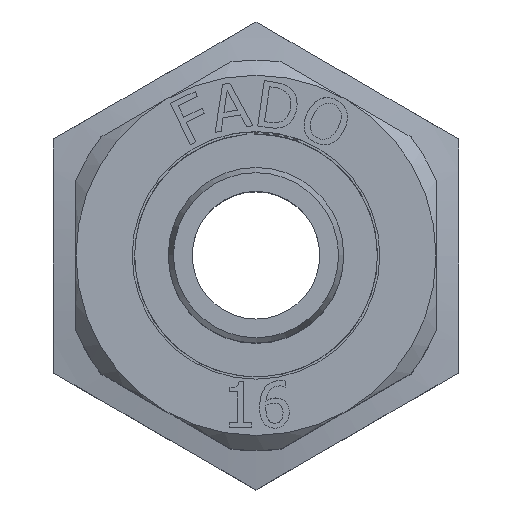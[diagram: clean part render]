
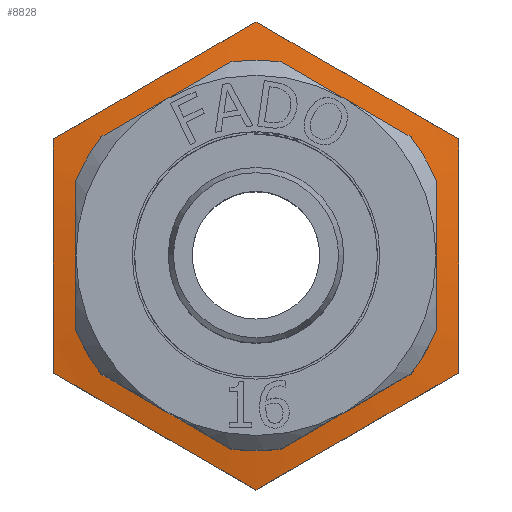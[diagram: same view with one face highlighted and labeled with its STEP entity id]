
A CAD part, top view. The second image highlights one B-rep face of the part: STEP entity #8828.
In plain terms, the highlighted conical face has half-angle 80 degrees and reference radius 14.464 mm.
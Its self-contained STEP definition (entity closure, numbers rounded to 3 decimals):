
#1005=LINE('',#11603,#1531);
#1531=VECTOR('',#9988,14.464);
#2062=(
BOUNDED_CURVE()
B_SPLINE_CURVE(2,(#11605,#11606,#11607),.UNSPECIFIED.,.F.,.F.)
B_SPLINE_CURVE_WITH_KNOTS((3,3),(0.4,2.115),
 .UNSPECIFIED.)
CURVE()
GEOMETRIC_REPRESENTATION_ITEM()
RATIONAL_B_SPLINE_CURVE((1.098,1.267,1.098))
REPRESENTATION_ITEM('')
);
#2063=(
BOUNDED_CURVE()
B_SPLINE_CURVE(2,(#11609,#11610,#11611),.UNSPECIFIED.,.F.,.F.)
B_SPLINE_CURVE_WITH_KNOTS((3,3),(0.4,2.115),
 .UNSPECIFIED.)
CURVE()
GEOMETRIC_REPRESENTATION_ITEM()
RATIONAL_B_SPLINE_CURVE((1.098,1.267,1.098))
REPRESENTATION_ITEM('')
);
#2064=(
BOUNDED_CURVE()
B_SPLINE_CURVE(2,(#11613,#11614,#11615),.UNSPECIFIED.,.F.,.F.)
B_SPLINE_CURVE_WITH_KNOTS((3,3),(0.4,2.115),
 .UNSPECIFIED.)
CURVE()
GEOMETRIC_REPRESENTATION_ITEM()
RATIONAL_B_SPLINE_CURVE((1.098,1.267,1.098))
REPRESENTATION_ITEM('')
);
#2065=(
BOUNDED_CURVE()
B_SPLINE_CURVE(2,(#11617,#11618,#11619),.UNSPECIFIED.,.F.,.F.)
B_SPLINE_CURVE_WITH_KNOTS((3,3),(0.4,2.115),
 .UNSPECIFIED.)
CURVE()
GEOMETRIC_REPRESENTATION_ITEM()
RATIONAL_B_SPLINE_CURVE((1.098,1.267,1.098))
REPRESENTATION_ITEM('')
);
#2066=(
BOUNDED_CURVE()
B_SPLINE_CURVE(2,(#11621,#11622,#11623),.UNSPECIFIED.,.F.,.F.)
B_SPLINE_CURVE_WITH_KNOTS((3,3),(0.4,2.115),
 .UNSPECIFIED.)
CURVE()
GEOMETRIC_REPRESENTATION_ITEM()
RATIONAL_B_SPLINE_CURVE((1.098,1.267,1.098))
REPRESENTATION_ITEM('')
);
#2067=(
BOUNDED_CURVE()
B_SPLINE_CURVE(2,(#11624,#11625,#11626),.UNSPECIFIED.,.F.,.F.)
B_SPLINE_CURVE_WITH_KNOTS((3,3),(0.4,2.115),
 .UNSPECIFIED.)
CURVE()
GEOMETRIC_REPRESENTATION_ITEM()
RATIONAL_B_SPLINE_CURVE((1.098,1.267,1.098))
REPRESENTATION_ITEM('')
);
#2097=CONICAL_SURFACE('',#9442,14.464,1.396);
#2182=FACE_OUTER_BOUND('',#2701,.T.);
#2701=EDGE_LOOP('',(#5876,#5877,#5878,#5879,#5880,#5881,#5882,#5883,#5884,
#5885));
#3275=CIRCLE('',#9443,10.5);
#3276=CIRCLE('',#9444,10.5);
#3520=VERTEX_POINT('',#11599);
#3521=VERTEX_POINT('',#11600);
#3522=VERTEX_POINT('',#11602);
#3523=VERTEX_POINT('',#11604);
#3524=VERTEX_POINT('',#11608);
#3525=VERTEX_POINT('',#11612);
#3526=VERTEX_POINT('',#11616);
#3527=VERTEX_POINT('',#11620);
#4467=EDGE_CURVE('',#3520,#3521,#3275,.T.);
#4468=EDGE_CURVE('',#3520,#3522,#1005,.T.);
#4469=EDGE_CURVE('',#3523,#3522,#2062,.T.);
#4470=EDGE_CURVE('',#3524,#3523,#2063,.T.);
#4471=EDGE_CURVE('',#3525,#3524,#2064,.T.);
#4472=EDGE_CURVE('',#3526,#3525,#2065,.T.);
#4473=EDGE_CURVE('',#3527,#3526,#2066,.T.);
#4474=EDGE_CURVE('',#3522,#3527,#2067,.T.);
#4475=EDGE_CURVE('',#3521,#3520,#3276,.T.);
#5876=ORIENTED_EDGE('',*,*,#4467,.F.);
#5877=ORIENTED_EDGE('',*,*,#4468,.T.);
#5878=ORIENTED_EDGE('',*,*,#4469,.F.);
#5879=ORIENTED_EDGE('',*,*,#4470,.F.);
#5880=ORIENTED_EDGE('',*,*,#4471,.F.);
#5881=ORIENTED_EDGE('',*,*,#4472,.F.);
#5882=ORIENTED_EDGE('',*,*,#4473,.F.);
#5883=ORIENTED_EDGE('',*,*,#4474,.F.);
#5884=ORIENTED_EDGE('',*,*,#4468,.F.);
#5885=ORIENTED_EDGE('',*,*,#4475,.F.);
#8828=ADVANCED_FACE('',(#2182),#2097,.T.);
#9442=AXIS2_PLACEMENT_3D('',#11598,#9984,#9985);
#9443=AXIS2_PLACEMENT_3D('',#11601,#9986,#9987);
#9444=AXIS2_PLACEMENT_3D('',#11627,#9989,#9990);
#9984=DIRECTION('center_axis',(0.,0.,-1.));
#9985=DIRECTION('ref_axis',(0.,1.,0.));
#9986=DIRECTION('center_axis',(0.,0.,1.));
#9987=DIRECTION('ref_axis',(1.,0.,0.));
#9988=DIRECTION('',(0.,-0.985,-0.174));
#9989=DIRECTION('center_axis',(0.,0.,1.));
#9990=DIRECTION('ref_axis',(1.,0.,0.));
#11598=CARTESIAN_POINT('Origin',(0.,0.,3.051));
#11599=CARTESIAN_POINT('',(0.,-10.5,3.75));
#11600=CARTESIAN_POINT('',(0.,10.5,3.75));
#11601=CARTESIAN_POINT('Origin',(0.,0.,3.75));
#11602=CARTESIAN_POINT('',(0.,-15.588,2.853));
#11603=CARTESIAN_POINT('',(0.,-14.464,3.051));
#11604=CARTESIAN_POINT('',(13.5,-7.794,2.853));
#11605=CARTESIAN_POINT('Ctrl Pts',(13.5,-7.794,2.853));
#11606=CARTESIAN_POINT('Ctrl Pts',(6.75,-11.691,3.54));
#11607=CARTESIAN_POINT('Ctrl Pts',(0.,-15.588,
2.853));
#11608=CARTESIAN_POINT('',(13.5,7.794,2.853));
#11609=CARTESIAN_POINT('Ctrl Pts',(13.5,7.794,2.853));
#11610=CARTESIAN_POINT('Ctrl Pts',(13.5,0.,3.54));
#11611=CARTESIAN_POINT('Ctrl Pts',(13.5,-7.794,2.853));
#11612=CARTESIAN_POINT('',(0.,15.588,2.853));
#11613=CARTESIAN_POINT('Ctrl Pts',(0.,15.588,
2.853));
#11614=CARTESIAN_POINT('Ctrl Pts',(6.75,11.691,3.54));
#11615=CARTESIAN_POINT('Ctrl Pts',(13.5,7.794,2.853));
#11616=CARTESIAN_POINT('',(-13.5,7.794,2.853));
#11617=CARTESIAN_POINT('Ctrl Pts',(-13.5,7.794,2.853));
#11618=CARTESIAN_POINT('Ctrl Pts',(-6.75,11.691,3.54));
#11619=CARTESIAN_POINT('Ctrl Pts',(0.,15.588,
2.853));
#11620=CARTESIAN_POINT('',(-13.5,-7.794,2.853));
#11621=CARTESIAN_POINT('Ctrl Pts',(-13.5,-7.794,2.853));
#11622=CARTESIAN_POINT('Ctrl Pts',(-13.5,0.,3.54));
#11623=CARTESIAN_POINT('Ctrl Pts',(-13.5,7.794,2.853));
#11624=CARTESIAN_POINT('Ctrl Pts',(0.,-15.588,
2.853));
#11625=CARTESIAN_POINT('Ctrl Pts',(-6.75,-11.691,3.54));
#11626=CARTESIAN_POINT('Ctrl Pts',(-13.5,-7.794,2.853));
#11627=CARTESIAN_POINT('Origin',(0.,0.,3.75));
